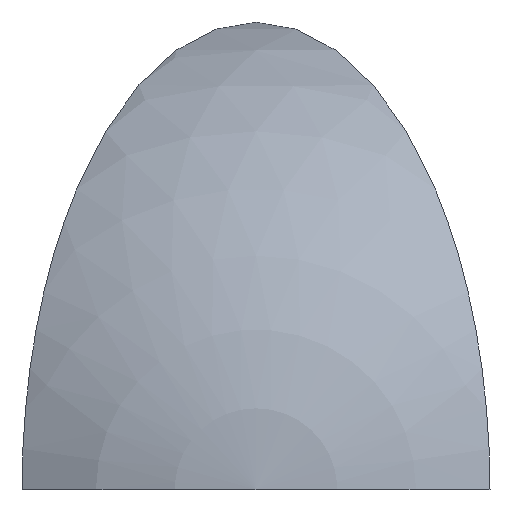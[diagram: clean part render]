
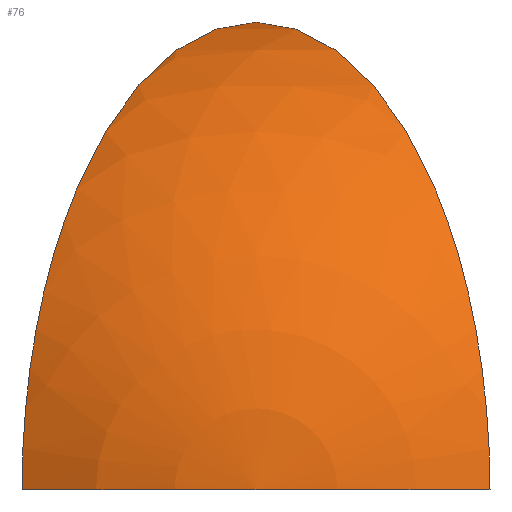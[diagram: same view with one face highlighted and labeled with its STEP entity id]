
A CAD part, top view. The second image highlights one B-rep face of the part: STEP entity #76.
In plain terms, the highlighted spherical face has radius 1 mm.
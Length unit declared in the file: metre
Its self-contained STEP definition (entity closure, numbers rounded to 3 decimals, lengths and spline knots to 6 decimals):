
#1=CARTESIAN_POINT('',(0.,0.544921,-2.038192));
#2=CARTESIAN_POINT('',(0.,0.544921,-2.037192));
#3=CARTESIAN_POINT('',(0.0005,0.544055,-2.038192));
#4=CARTESIAN_POINT('',(-0.0005,0.544055,-2.038192));
#10=VERTEX_POINT('',#2);
#11=VERTEX_POINT('',#3);
#12=VERTEX_POINT('',#4);
#20=DIRECTION('',(0.,1.,0.));
#21=DIRECTION('',(1.,0.,0.));
#22=AXIS2_PLACEMENT_3D('',#1,#20,#21);
#30=DIRECTION('',(0.866,0.5,0.));
#31=DIRECTION('',(0.5,-0.866,0.));
#32=AXIS2_PLACEMENT_3D('',#1,#30,#31);
#33=DIRECTION('',(0.866,-0.5,0.));
#34=DIRECTION('',(0.5,0.866,0.));
#35=AXIS2_PLACEMENT_3D('',#1,#33,#34);
#36=DIRECTION('',(0.,0.,-1.));
#37=DIRECTION('',(1.,0.,0.));
#38=AXIS2_PLACEMENT_3D('',#1,#36,#37);
#50=CIRCLE('',#32,0.001);
#51=CIRCLE('',#35,0.001);
#52=CIRCLE('',#38,0.001);
#60=EDGE_CURVE('',#10,#11,#50,.T.);
#61=EDGE_CURVE('',#10,#12,#51,.T.);
#62=EDGE_CURVE('',#11,#12,#52,.T.);
#70=ORIENTED_EDGE('',*,*,#60,.F.);
#71=ORIENTED_EDGE('',*,*,#61,.T.);
#72=ORIENTED_EDGE('',*,*,#62,.F.);
#73=EDGE_LOOP('',(#70,#71,#72));
#74=FACE_OUTER_BOUND('',#73,.T.);
#75=SPHERICAL_SURFACE('',#22,0.001);
#76=ADVANCED_FACE('',(#74),#75,.T.);
